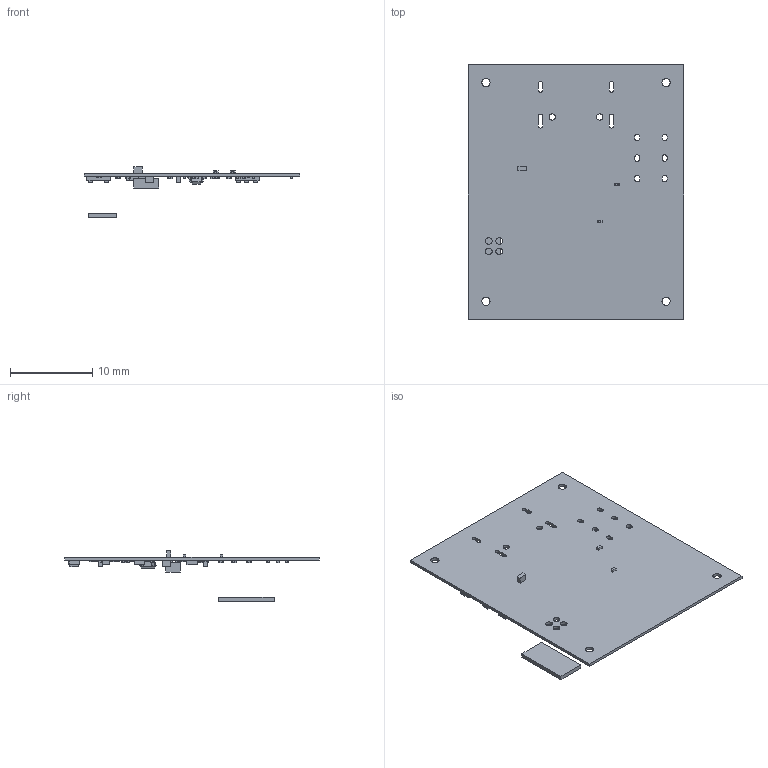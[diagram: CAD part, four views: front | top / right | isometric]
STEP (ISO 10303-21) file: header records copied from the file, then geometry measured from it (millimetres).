
FILE_DESCRIPTION(('Open CASCADE Model'),'2;1');
FILE_NAME('Open CASCADE Shape Model','2024-05-09T17:12:10',('Author'),( 'Open CASCADE'),'Open CASCADE STEP processor 6.8','Open CASCADE 6.8' ,'Unknown');
FILE_SCHEMA(('AUTOMOTIVE_DESIGN { 1 0 10303 214 1 1 1 1 }'));
Length unit declared in the file: millimetre
Products named in the file (61): PCB; Board; C124; User_Library-Chip_Cap_MLCC_0201_(0603); Q1; 981080264; Extruded; 981090464; R19; 981089920; R18; Q3; 981086792; C28; C27; C26; C25; C1; C2; C3; C8; C9; C10; C11; C13; C16; C17; C18; C20; C24; CAT1; 981088152; L1; 1259003080; 1259003216; 1633709360; R3; 981090056; R12; Type_C_R1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
Assembly tree (97 placements, depth 4):
  PCB
    Board
    C124
      User_Library-Chip_Cap_MLCC_0201_(0603)
    Q1
      981080264  x3
        Extruded
      981090464
        Extruded
    R19
      981089920
        Extruded
    R18
      981089920
        Extruded
    Q3
      981080264  x3
        Extruded
      981086792
        Extruded
    C28
      User_Library-Chip_Cap_MLCC_0201_(0603)
    C27
      User_Library-Chip_Cap_MLCC_0201_(0603)
    C26
      User_Library-Chip_Cap_MLCC_0201_(0603)
    C25
      User_Library-Chip_Cap_MLCC_0201_(0603)
    C1
      User_Library-Chip_Cap_MLCC_0201_(0603)
    C2
      User_Library-Chip_Cap_MLCC_0201_(0603)
    C3
      User_Library-Chip_Cap_MLCC_0201_(0603)
    C8
      User_Library-Chip_Cap_MLCC_0201_(0603)
    C9
      User_Library-Chip_Cap_MLCC_0201_(0603)
    C10
      User_Library-Chip_Cap_MLCC_0201_(0603)
    C11
      User_Library-Chip_Cap_MLCC_0201_(0603)
    C13
      User_Library-Chip_Cap_MLCC_0201_(0603)
    C16
      User_Library-Chip_Cap_MLCC_0201_(0603)
    C17
      User_Library-Chip_Cap_MLCC_0201_(0603)
    C18
      User_Library-Chip_Cap_MLCC_0201_(0603)
    C20
      User_Library-Chip_Cap_MLCC_0201_(0603)
    C24
      User_Library-Chip_Cap_MLCC_0201_(0603)
    CAT1
      981088152
        Extruded
    L1
      1259003080  x2
        Extruded
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Bounding box: 26.24 x 31 x 6.15 mm (x, y, z)
Volume: 310.8 mm3; surface area: 1873.1 mm2
Topology: 50 solids, 50 shells, 1352 faces, 3244 edges, 1872 vertices
Faces by surface type: plane 619, cylinder 492, bspline 233, sphere 8
Full cylindrical faces by diameter (mm): 0.762 x2, 0.8 x4, 1 x4
Entity records: 41441 total; most frequent: CARTESIAN_POINT 21369, DIRECTION 3004, ORIENTED_EDGE 1896, PCURVE 1896, DEFINITIONAL_REPRESENTATION 1896, LINE 1826, VECTOR 1826, EDGE_CURVE 948
